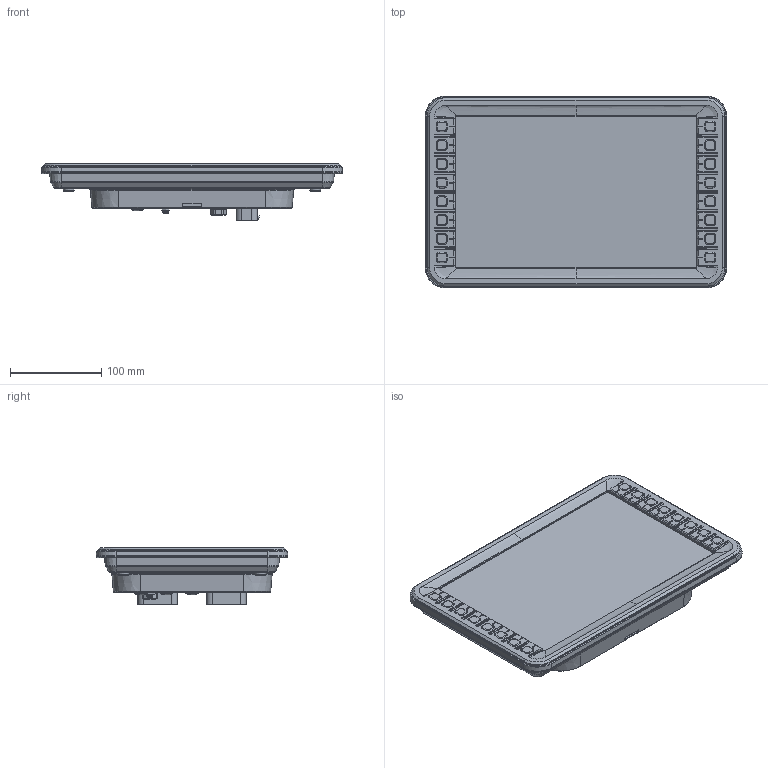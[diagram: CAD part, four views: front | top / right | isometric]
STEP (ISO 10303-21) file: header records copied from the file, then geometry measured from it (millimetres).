
FILE_DESCRIPTION (( 'STEP AP214' ), '1' );
FILE_NAME ('M812-01 (Keypad).STEP', '2020-08-21T09:06:54', ( '' ), ( '' ), 'SwSTEP 2.0', 'SolidWorks 2019', '' );
FILE_SCHEMA (( 'AUTOMOTIVE_DESIGN' ));
Length unit declared in the file: millimetre
Products named in the file (1): M812-01 (Keypad)
Bounding box: 330.05 x 210.05 x 63.3 mm (x, y, z)
Volume: 2173119.4 mm3; surface area: 206893.2 mm2
Topology: 1 solids, 9 shells, 4279 faces, 10396 edges, 6111 vertices
Faces by surface type: cylinder 1400, plane 1318, bspline 788, sphere 265, torus 260, cone 248
Full cylindrical faces by diameter (mm): 1 x1, 2 x1, 4.2 x9, 5.6 x8, 6.57 x4, 7 x2, 9 x2, 12 x3, 13 x1, 13.5 x3
Entity records: 162076 total; most frequent: CARTESIAN_POINT 71316, ORIENTED_EDGE 20088, DIRECTION 16746, EDGE_CURVE 10044, AXIS2_PLACEMENT_3D 6524, VERTEX_POINT 6055, EDGE_LOOP 4551, FACE_OUTER_BOUND 4334
